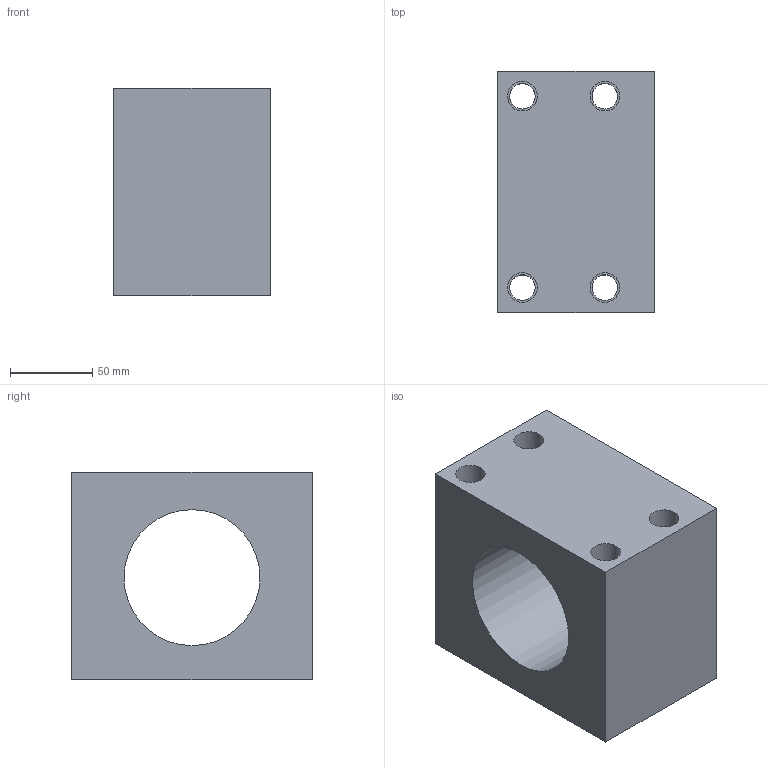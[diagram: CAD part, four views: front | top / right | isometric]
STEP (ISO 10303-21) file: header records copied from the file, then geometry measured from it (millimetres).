
FILE_DESCRIPTION(/* description */ (''),/* implementation_level */ '2;1');
FILE_NAME(/* name */ 'NH40F.stp',/* time_stamp */ '2017-08-19T09:02:33+08:00',/* author */ (''),/* organization */ (''),/* preprocessor_version */ 'ST-DEVELOPER v15',/* originating_system */ 'SIEMENS PLM Software NX 9.0',/* authorisation */ '');
FILE_SCHEMA (('CONFIG_CONTROL_DESIGN'));
Length unit declared in the file: millimetre
Products named in the file (1): NH40F
Bounding box: 95 x 146 x 126 mm (x, y, z)
Volume: 1113199.1 mm3; surface area: 131256.1 mm2
Topology: 1 solids, 1 shells, 39 faces, 91 edges, 62 vertices
Faces by surface type: cylinder 19, plane 14, cone 6
Full cylindrical faces by diameter (mm): 8 x6, 15.5 x4, 18 x4, 25 x4, 82.4 x1
Entity records: 994 total; most frequent: DIRECTION 168, CARTESIAN_POINT 142, ORIENTED_EDGE 100, FACE_BOUND 86, EDGE_LOOP 82, AXIS2_PLACEMENT_3D 78, VERTEX_POINT 52, EDGE_CURVE 50
